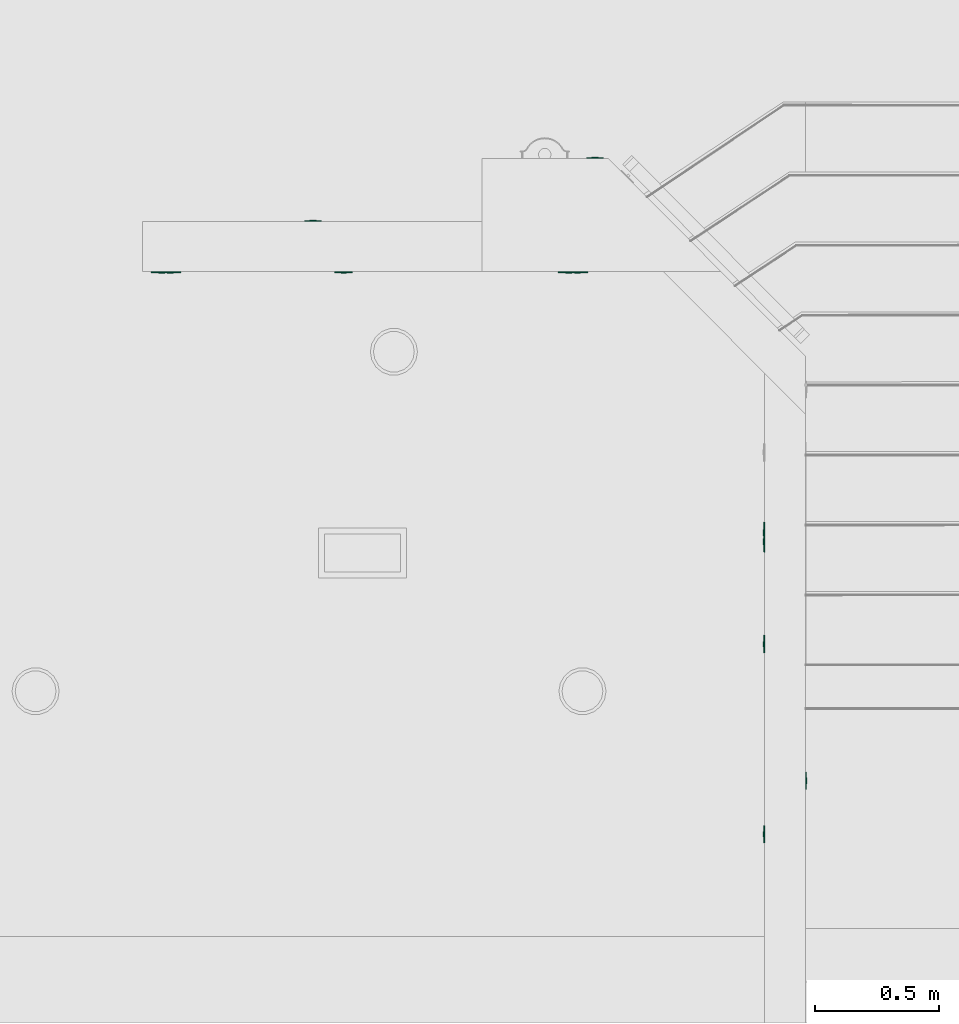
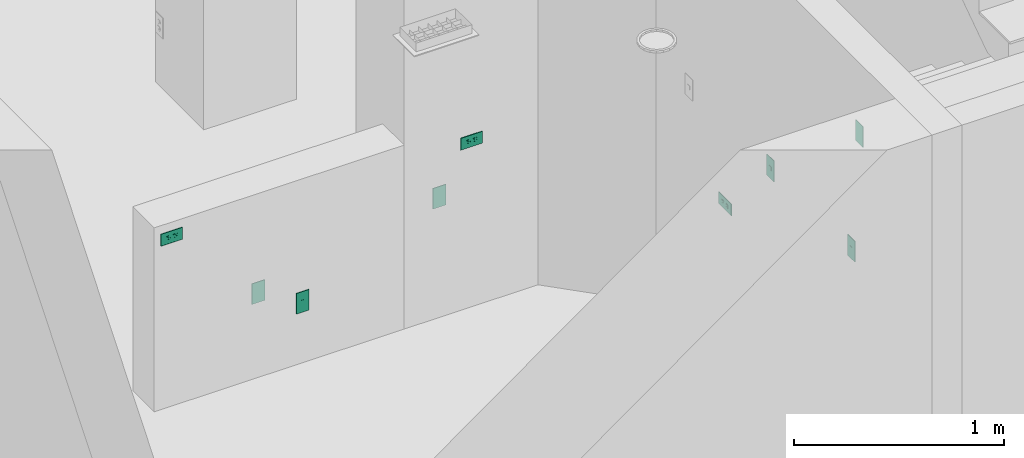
# One storey, part 4 of 48: 9 flow controllers.
"""IFC2X3 building model written with IfcOpenShell, lengths in inches."""

import ifcopenshell
import ifcopenshell.guid

model = None  # the IFC model being written
_history = None  # IfcOwnerHistory: only IFC2X3 demands one
_inside = {}  # id of a spatial element -> (the spatial element, [elements in it])
_under = {}  # id of a project, library or spatial element -> (it, [spatial elements below it])
_declared = {}  # id of a project -> (the project, [libraries it declares])
_typed = {}  # id of a type object -> (the type object, [elements of that type])
_made_of = {}  # id of a material, layer set ... -> (it, [elements and type objects made of it])


def new_model(schema):
    """Start an empty IFC model of exactly this schema.

    Asked for "IFC4X3", IfcOpenShell would pick the latest addendum, in which some entities
    have other attributes; the version numbers below select the first issue.
    IFC2X3 requires an IfcOwnerHistory on every rooted entity: one is made here for all.
    """
    global model, _history
    if schema == "IFC4X3":
        model = ifcopenshell.file(schema_version=(4, 3, 0, 0))
    else:
        model = ifcopenshell.file(schema=schema)
    _inside.clear()
    _under.clear()
    _declared.clear()
    _typed.clear()
    _made_of.clear()
    _history = None
    if model.schema == "IFC2X3":
        org = make("IfcOrganization", Name="unknown")
        user = make(
            "IfcPersonAndOrganization",
            ThePerson=make("IfcPerson", FamilyName="unknown"),
            TheOrganization=org,
        )
        app = make(
            "IfcApplication",
            ApplicationDeveloper=org,
            Version="unknown",
            ApplicationFullName="unknown",
            ApplicationIdentifier="unknown",
        )
        _history = make(
            "IfcOwnerHistory",
            OwningUser=user,
            OwningApplication=app,
            ChangeAction="ADDED",
            CreationDate=0,
        )
    return model


def make(cls, **values):
    """One entity of the class cls with the attributes given. An attribute that is None is left unset."""
    return model.create_entity(
        cls, **{name: value for name, value in values.items() if value is not None}
    )


def entity(cls, *values):
    """Any entity or typed value of the class cls, its attributes in the order of the schema. None: left unset."""
    e = model.create_entity(cls)
    for i, value in enumerate(values):
        if value is not None:
            e[i] = value
    return e


def rooted(cls, **values):
    """An entity with a GlobalId (a new one), such as an element, a storey or a relation."""
    return make(cls, GlobalId=ifcopenshell.guid.new(), OwnerHistory=_history, **values)


def si_unit(unit_type, name, prefix=None):
    """IfcSIUnit, for example si_unit("LENGTHUNIT", "METRE", prefix="MILLI")."""
    return make("IfcSIUnit", UnitType=unit_type, Prefix=prefix, Name=name)


def converted_unit(unit_type, name, factor, base, dimensions=None, offset=None):
    """IfcConversionBasedUnit, such as the inch: factor (a typed value) times the base unit."""
    return make(
        "IfcConversionBasedUnit"
        if offset is None
        else "IfcConversionBasedUnitWithOffset",
        ConversionOffset=offset,
        Dimensions=None
        if dimensions is None
        else entity("IfcDimensionalExponents", *dimensions),
        UnitType=unit_type,
        Name=name,
        ConversionFactor=make(
            "IfcMeasureWithUnit", ValueComponent=factor, UnitComponent=base
        ),
    )


def derived_unit(unit_type, elements):
    """IfcDerivedUnit: a product of units, each with its exponent."""
    return make(
        "IfcDerivedUnit",
        Elements=[
            make("IfcDerivedUnitElement", Unit=unit, Exponent=power)
            for unit, power in elements
        ],
        UnitType=unit_type,
    )


def money_unit(currency):
    """IfcMonetaryUnit."""
    return make("IfcMonetaryUnit", Currency=currency)


def assignment(units):
    """IfcUnitAssignment: the units of a project."""
    return None if units is None else make("IfcUnitAssignment", Units=units)


def point(xyz):
    """IfcCartesianPoint."""
    return None if xyz is None else make("IfcCartesianPoint", Coordinates=xyz)


def direction(xyz):
    """IfcDirection."""
    return None if xyz is None else make("IfcDirection", DirectionRatios=xyz)


def frame(location, z_axis=None, x_axis=None):
    """IfcAxis2Placement3D, a coordinate frame: its origin and axes. An axis left out is left unset."""
    return make(
        "IfcAxis2Placement3D",
        Location=point(location),
        Axis=direction(z_axis),
        RefDirection=direction(x_axis),
    )


def origin_with_axes():
    """The frame at (0, 0, 0) with the z axis (0, 0, 1) and the x axis (1, 0, 0) written out."""
    return frame((0.0, 0.0, 0.0), z_axis=(0.0, 0.0, 1.0), x_axis=(1.0, 0.0, 0.0))


def place(relative_to, where):
    """IfcLocalPlacement: puts the frame where relative to a parent placement (None: the world)."""
    return make(
        "IfcLocalPlacement", PlacementRelTo=relative_to, RelativePlacement=where
    )


def context(
    kind, dimensions, precision=None, world=None, true_north=None, identifier=None
):
    """IfcGeometricRepresentationContext, for example the 3D "Model" context."""
    return make(
        "IfcGeometricRepresentationContext",
        ContextIdentifier=identifier,
        ContextType=kind,
        CoordinateSpaceDimension=dimensions,
        Precision=precision,
        WorldCoordinateSystem=world,
        TrueNorth=true_north,
    )


def subcontext(parent, identifier, kind, view, scale=None):
    """IfcGeometricRepresentationSubContext, for example "Body" below "Model"."""
    return make(
        "IfcGeometricRepresentationSubContext",
        ContextIdentifier=identifier,
        ContextType=kind,
        ParentContext=parent,
        TargetScale=scale,
        TargetView=view,
    )


def project(units=None, contexts=None):
    """IfcProject with its units and contexts."""
    return rooted(
        "IfcProject",
        Name="project",
        RepresentationContexts=contexts,
        UnitsInContext=assignment(units),
    )


def spatial(cls, under=None, at=None, **own):
    """A site, building, storey or space (cls), placed at a placement, below another one or the project."""
    s = rooted(cls, ObjectPlacement=at, **own)
    if under is not None:
        _under.setdefault(under.id(), (under, []))[1].append(s)
    return s


def faces_of(points, faces, orient=None, outer=None):
    """IfcFace entities. A face is a list of loops; a loop is a list of indices into points, from 0.

    orient and outer hold one flag for each loop. By default every Orientation is true, the
    first loop of a face is its IfcFaceOuterBound and the others are IfcFaceBound.
    """
    made = []
    for i, loops in enumerate(faces):
        bounds = []
        for j, loop in enumerate(loops):
            is_outer = j == 0 if outer is None else outer[i][j]
            bounds.append(
                make(
                    "IfcFaceOuterBound" if is_outer else "IfcFaceBound",
                    Bound=make("IfcPolyLoop", Polygon=[points[k] for k in loop]),
                    Orientation=True if orient is None else orient[i][j],
                )
            )
        made.append(make("IfcFace", Bounds=bounds))
    return made


def faceted_brep(points, faces, orient=None, outer=None, voids=None):
    """IfcFacetedBrep: a solid bounded by flat faces; with voids (closed shells), ...WithVoids."""
    shared = [point(p) for p in points]
    hull = make("IfcClosedShell", CfsFaces=faces_of(shared, faces, orient, outer))
    if voids is None:
        return make("IfcFacetedBrep", Outer=hull)
    return make(
        "IfcFacetedBrepWithVoids",
        Outer=hull,
        Voids=[
            make(cls, CfsFaces=faces_of(shared, fs, o, b)) for cls, fs, o, b in voids
        ],
    )


def shape(context_of_items, identifier, shape_type, items):
    """IfcShapeRepresentation: the items that make up one representation, for example the "Body"."""
    return make(
        "IfcShapeRepresentation",
        ContextOfItems=context_of_items,
        RepresentationIdentifier=identifier,
        RepresentationType=shape_type,
        Items=items,
    )


def source(mapping_origin, context_of_items, identifier, shape_type, items):
    """IfcRepresentationMap: a shape defined once, which mapped items show again and again."""
    return make(
        "IfcRepresentationMap",
        MappingOrigin=mapping_origin,
        MappedRepresentation=shape(context_of_items, identifier, shape_type, items),
    )


def transform(
    local_origin,
    x_axis=None,
    y_axis=None,
    z_axis=None,
    scale=None,
    scale2=None,
    scale3=None,
    uniform=True,
):
    """IfcCartesianTransformationOperator3D, or its non-uniform kind. x_axis, y_axis, z_axis: its Axis1, 2, 3."""
    if uniform:
        return make(
            "IfcCartesianTransformationOperator3D",
            Axis1=direction(x_axis),
            Axis2=direction(y_axis),
            LocalOrigin=point(local_origin),
            Scale=scale,
            Axis3=direction(z_axis),
        )
    return make(
        "IfcCartesianTransformationOperator3DnonUniform",
        Axis1=direction(x_axis),
        Axis2=direction(y_axis),
        LocalOrigin=point(local_origin),
        Scale=scale,
        Axis3=direction(z_axis),
        Scale2=scale2,
        Scale3=scale3,
    )


def mapped(mapping_source, mapping_target):
    """IfcMappedItem: shows the shape of a source again, moved by a transform."""
    return make(
        "IfcMappedItem", MappingSource=mapping_source, MappingTarget=mapping_target
    )


def made_of(thing, what):
    """Note that an element or type object is made of a material, layer set ...; save() writes the relation."""
    if what is not None:
        _made_of.setdefault(what.id(), (what, []))[1].append(thing)
    return thing


def type_object(cls, material=None, **own):
    """A type object (cls), such as IfcWallType, which elements share."""
    return made_of(rooted(cls, **own), material)


def element(
    cls,
    number,
    at=None,
    inside=None,
    cuts=None,
    type_object=None,
    material=None,
    context=None,
    identifier="Body",
    shape_type=None,
    held_by="IfcProductDefinitionShape",
    body=None,
    shapes=None,
    **own,
):
    """One element of the class cls, such as IfcWall. Its Tag is "e" and its number.

    at: its placement. inside: the storey or other place that contains it. cuts: it is an
    opening in that element (IfcRelVoidsElement). A single representation is given by context,
    identifier, shape_type and body (its items); several are given by shapes. held_by: the class
    of the entity that holds the representations. save() writes the other relations.
    """
    e = rooted(cls, Tag="e%d" % number, ObjectPlacement=at, **own)
    if body is not None:
        shapes = [shape(context, identifier, shape_type, body)]
    if shapes is not None:
        e.Representation = make(held_by, Representations=shapes)
    if inside is not None:
        _inside.setdefault(inside.id(), (inside, []))[1].append(e)
    if cuts is not None:
        rooted(
            "IfcRelVoidsElement", RelatingBuildingElement=cuts, RelatedOpeningElement=e
        )
    if type_object is not None:
        _typed.setdefault(type_object.id(), (type_object, []))[1].append(e)
    return made_of(e, material)


def aggregate(whole, parts):
    """IfcRelAggregates: a whole, such as a stair, and the parts it consists of."""
    return rooted("IfcRelAggregates", RelatingObject=whole, RelatedObjects=parts)


def save(model, path):
    """Write the relations noted so far, then the file.

    IfcRelAggregates (storeys below a building ...), IfcRelContainedInSpatialStructure (elements
    in a storey), IfcRelDefinesByType, IfcRelAssociatesMaterial and IfcRelDeclares: one each for
    every whole, place, type object, material and project.
    """
    for whole, parts in _under.values():
        aggregate(whole, parts)
    for where, things in _inside.values():
        rooted(
            "IfcRelContainedInSpatialStructure",
            RelatedElements=things,
            RelatingStructure=where,
        )
    for kind, things in _typed.values():
        rooted("IfcRelDefinesByType", RelatedObjects=things, RelatingType=kind)
    for what, things in _made_of.values():
        rooted("IfcRelAssociatesMaterial", RelatedObjects=things, RelatingMaterial=what)
    for by, libraries in _declared.values():
        rooted("IfcRelDeclares", RelatingContext=by, RelatedDefinitions=libraries)
    model.write(path)


model = new_model("IFC2X3")

# Units and contexts
model_context = context("Model", 3, precision=0.00039370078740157, world=origin_with_axes(), true_north=direction((0.0, 1.0)))
plan_context = context("Plan", 3, precision=0.00039370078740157, world=origin_with_axes(), true_north=direction((0.0, 1.0)))
body_context = subcontext(model_context, "Body", "Model", "MODEL_VIEW")
ifc_project = project(units=[converted_unit("LENGTHUNIT", "INCH", entity("IfcPositiveLengthMeasure", 0.0254), si_unit("LENGTHUNIT", "METRE"), dimensions=[1, 0, 0, 0, 0, 0, 0]), converted_unit("AREAUNIT", "SQUARE_FOOT", entity("IfcPositiveLengthMeasure", 0.09290304), si_unit("AREAUNIT", "SQUARE_METRE"), dimensions=[2, 0, 0, 0, 0, 0, 0]), si_unit("PLANEANGLEUNIT", "RADIAN"), si_unit("SOLIDANGLEUNIT", "STERADIAN"), money_unit("USD"), converted_unit("TIMEUNIT", "Year", entity("IfcTimeMeasure", 31557600.0), si_unit("TIMEUNIT", "SECOND"), dimensions=[0, 0, 1, 0, 0, 0, 0]), si_unit("MASSUNIT", "GRAM", prefix="KILO"), si_unit("THERMODYNAMICTEMPERATUREUNIT", "DEGREE_CELSIUS"), si_unit("LUMINOUSINTENSITYUNIT", "LUMEN"), si_unit("ENERGYUNIT", "JOULE", prefix="MEGA"), derived_unit("SPECIFICHEATCAPACITYUNIT", [(si_unit("ENERGYUNIT", "JOULE"), 1), (si_unit("MASSUNIT", "GRAM", prefix="KILO"), -1), (si_unit("THERMODYNAMICTEMPERATUREUNIT", "KELVIN"), -1)])], contexts=[model_context, plan_context])

# Site, building, storey
site_placement = place(None, origin_with_axes())
site = spatial("IfcSite", under=ifc_project, at=site_placement, Name="Site", CompositionType="ELEMENT")
building_placement = place(site_placement, origin_with_axes())
building = spatial("IfcBuilding", under=site, at=building_placement, Name="Building", CompositionType="ELEMENT")
storey_placement = place(building_placement, origin_with_axes())
storey = spatial("IfcBuildingStorey", under=building, at=storey_placement, Name="First Floor", CompositionType="ELEMENT", Elevation=0.0)

# Flow controllers
switching_device_type = type_object("IfcSwitchingDeviceType", Name="Outlet 1 US", PredefinedType="NOTDEFINED")
shared_shape_1 = source(origin_with_axes(), body_context, "Body", "Brep", [
    faceted_brep([(0.39370078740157, -0.03444881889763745, -1.18110236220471), (0.5436477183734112, -0.03444881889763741, -0.7086614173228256), (0.5436477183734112, -0.2165354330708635, -0.7086614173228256), (0.39370078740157, -0.2165354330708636, -1.18110236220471), (-0.3937007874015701, -0.03444881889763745, -1.181102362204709), (-0.543647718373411, -0.03444881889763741, -0.7086614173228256), (-0.39370078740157, -0.03444881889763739, -0.2362204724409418), (0.3937007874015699, -0.03444881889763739, -0.2362204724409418), (-0.196850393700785, -0.03444881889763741, -0.7086614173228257), (-0.196850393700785, -0.0344488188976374, -0.4724409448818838), (-0.275590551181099, -0.0344488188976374, -0.4724409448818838), (-0.275590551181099, -0.03444881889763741, -0.7086614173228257), (0.196850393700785, -0.03444881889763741, -0.7086614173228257), (0.275590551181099, -0.03444881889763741, -0.7086614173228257), (0.275590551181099, -0.0344488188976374, -0.4724409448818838), (0.196850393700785, -0.0344488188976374, -0.4724409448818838), (-0.078740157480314, -0.03444881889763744, -1.102362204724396), (0.078740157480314, -0.03444881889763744, -1.102362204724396), (0.078740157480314, -0.03444881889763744, -1.023622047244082), (0.06819097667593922, -0.03444881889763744, -0.9842519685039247), (0.03937007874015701, -0.03444881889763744, -0.9554310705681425), (0.0, -0.03444881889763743, -0.9448818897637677), (-0.03937007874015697, -0.03444881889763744, -0.9554310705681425), (-0.06819097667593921, -0.03444881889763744, -0.9842519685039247), (-0.078740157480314, -0.03444881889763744, -1.023622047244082), (0.3937007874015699, -0.2165354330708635, -0.2362204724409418), (-0.39370078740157, -0.2165354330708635, -0.2362204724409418), (-0.543647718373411, -0.2165354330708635, -0.7086614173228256), (-0.3937007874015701, -0.2165354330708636, -1.181102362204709), (-0.196850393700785, -0.2165354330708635, -0.7086614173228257), (-0.275590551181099, -0.2165354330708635, -0.7086614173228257), (-0.275590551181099, -0.2165354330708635, -0.4724409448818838), (-0.196850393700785, -0.2165354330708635, -0.4724409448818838), (0.196850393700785, -0.2165354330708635, -0.7086614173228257), (0.196850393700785, -0.2165354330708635, -0.4724409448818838), (0.275590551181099, -0.2165354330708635, -0.4724409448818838), (0.275590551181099, -0.2165354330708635, -0.7086614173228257), (-0.078740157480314, -0.2165354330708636, -1.102362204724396), (-0.078740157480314, -0.2165354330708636, -1.023622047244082), (-0.06819097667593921, -0.2165354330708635, -0.9842519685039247), (-0.03937007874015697, -0.2165354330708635, -0.9554310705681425), (0.0, -0.2165354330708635, -0.9448818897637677), (0.03937007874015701, -0.2165354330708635, -0.9554310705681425), (0.06819097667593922, -0.2165354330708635, -0.9842519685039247), (0.078740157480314, -0.2165354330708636, -1.023622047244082), (0.078740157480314, -0.2165354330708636, -1.102362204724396)], [[[0, 1, 2, 3]], [[0, 4, 5, 6, 7, 1], [8, 9, 10, 11], [12, 13, 14, 15], [16, 17, 18, 19, 20, 21, 22, 23, 24]], [[1, 7, 25, 2]], [[3, 2, 25, 26, 27, 28], [29, 30, 31, 32], [33, 34, 35, 36], [37, 38, 39, 40, 41, 42, 43, 44, 45]], [[4, 0, 3, 28]], [[5, 4, 28, 27]], [[6, 5, 27, 26]], [[7, 6, 26, 25]], [[9, 8, 29, 32]], [[10, 9, 32, 31]], [[11, 10, 31, 30]], [[8, 11, 30, 29]], [[13, 12, 33, 36]], [[14, 13, 36, 35]], [[15, 14, 35, 34]], [[12, 15, 34, 33]], [[17, 16, 37, 45]], [[18, 17, 45, 44]], [[19, 18, 44, 43]], [[20, 19, 43, 42]], [[21, 20, 42, 41]], [[22, 21, 41, 40]], [[23, 22, 40, 39]], [[24, 23, 39, 38]], [[16, 24, 38, 37]]]),
    faceted_brep([(0.39370078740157, -0.03444881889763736, 0.2362204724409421), (0.5436477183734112, -0.03444881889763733, 0.7086614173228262), (0.5436477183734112, -0.2165354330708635, 0.7086614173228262), (0.39370078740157, -0.2165354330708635, 0.2362204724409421), (-0.3937007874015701, -0.03444881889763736, 0.2362204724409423), (-0.543647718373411, -0.03444881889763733, 0.7086614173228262), (-0.39370078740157, -0.0344488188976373, 1.18110236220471), (0.3937007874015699, -0.0344488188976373, 1.18110236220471), (-0.196850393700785, -0.03444881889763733, 0.7086614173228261), (-0.196850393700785, -0.03444881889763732, 0.944881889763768), (-0.275590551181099, -0.03444881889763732, 0.944881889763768), (-0.275590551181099, -0.03444881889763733, 0.7086614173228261), (0.196850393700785, -0.03444881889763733, 0.7086614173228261), (0.275590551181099, -0.03444881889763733, 0.7086614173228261), (0.275590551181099, -0.03444881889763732, 0.944881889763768), (0.196850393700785, -0.03444881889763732, 0.944881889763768), (-0.078740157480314, -0.03444881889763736, 0.3149606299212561), (0.078740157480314, -0.03444881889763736, 0.3149606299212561), (0.078740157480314, -0.03444881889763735, 0.3937007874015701), (0.06819097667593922, -0.03444881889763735, 0.4330708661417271), (0.03937007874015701, -0.03444881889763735, 0.4618917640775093), (0.0, -0.03444881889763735, 0.472440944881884), (-0.03937007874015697, -0.03444881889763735, 0.4618917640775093), (-0.06819097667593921, -0.03444881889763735, 0.4330708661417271), (-0.078740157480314, -0.03444881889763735, 0.3937007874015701), (0.3937007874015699, -0.2165354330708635, 1.18110236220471), (-0.39370078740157, -0.2165354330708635, 1.18110236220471), (-0.543647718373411, -0.2165354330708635, 0.7086614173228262), (-0.3937007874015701, -0.2165354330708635, 0.2362204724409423), (-0.196850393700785, -0.2165354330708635, 0.7086614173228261), (-0.275590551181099, -0.2165354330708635, 0.7086614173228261), (-0.275590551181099, -0.2165354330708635, 0.944881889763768), (-0.196850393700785, -0.2165354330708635, 0.944881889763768), (0.196850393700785, -0.2165354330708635, 0.7086614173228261), (0.196850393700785, -0.2165354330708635, 0.944881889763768), (0.275590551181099, -0.2165354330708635, 0.944881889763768), (0.275590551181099, -0.2165354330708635, 0.7086614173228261), (-0.078740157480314, -0.2165354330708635, 0.3149606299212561), (-0.078740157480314, -0.2165354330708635, 0.3937007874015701), (-0.06819097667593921, -0.2165354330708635, 0.4330708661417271), (-0.03937007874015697, -0.2165354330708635, 0.4618917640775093), (0.0, -0.2165354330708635, 0.472440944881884), (0.03937007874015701, -0.2165354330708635, 0.4618917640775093), (0.06819097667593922, -0.2165354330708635, 0.4330708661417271), (0.078740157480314, -0.2165354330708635, 0.3937007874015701), (0.078740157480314, -0.2165354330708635, 0.3149606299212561)], [[[0, 1, 2, 3]], [[0, 4, 5, 6, 7, 1], [8, 9, 10, 11], [12, 13, 14, 15], [16, 17, 18, 19, 20, 21, 22, 23, 24]], [[1, 7, 25, 2]], [[3, 2, 25, 26, 27, 28], [29, 30, 31, 32], [33, 34, 35, 36], [37, 38, 39, 40, 41, 42, 43, 44, 45]], [[4, 0, 3, 28]], [[5, 4, 28, 27]], [[6, 5, 27, 26]], [[7, 6, 26, 25]], [[9, 8, 29, 32]], [[10, 9, 32, 31]], [[11, 10, 31, 30]], [[8, 11, 30, 29]], [[13, 12, 33, 36]], [[14, 13, 36, 35]], [[15, 14, 35, 34]], [[12, 15, 34, 33]], [[17, 16, 37, 45]], [[18, 17, 45, 44]], [[19, 18, 44, 43]], [[20, 19, 43, 42]], [[21, 20, 42, 41]], [[22, 21, 41, 40]], [[23, 22, 40, 39]], [[24, 23, 39, 38]], [[16, 24, 38, 37]]]),
    faceted_brep([(-1.343503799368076, -0.1377952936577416, -2.327755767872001), (1.343503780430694, -0.1377952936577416, -2.327755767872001), (1.343503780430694, -0.1377952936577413, 2.327755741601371), (-1.343503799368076, -0.1377952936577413, 2.327755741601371), (0.39370078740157, -0.1377952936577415, -1.18110236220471), (-0.3937007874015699, -0.1377952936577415, -1.181102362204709), (-0.5436477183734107, -0.1377952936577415, -0.7086614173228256), (-0.39370078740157, -0.1377952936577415, -0.2362204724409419), (0.3937007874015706, -0.1377952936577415, -0.2362204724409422), (0.5436477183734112, -0.1377952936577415, -0.7086614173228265), (-0.39370078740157, -0.1377952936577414, 1.18110236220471), (0.3937007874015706, -0.1377952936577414, 1.18110236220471), (0.5436477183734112, -0.1377952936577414, 0.7086614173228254), (0.39370078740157, -0.1377952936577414, 0.236220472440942), (-0.3937007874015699, -0.1377952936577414, 0.2362204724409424), (-0.5436477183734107, -0.1377952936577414, 0.7086614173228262), (-1.352419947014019, -0.1366214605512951, -2.336671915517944), (1.352419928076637, -0.1366214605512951, -2.336671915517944), (1.352419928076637, -0.1366214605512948, 2.336671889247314), (-1.352419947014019, -0.1366214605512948, 2.336671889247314), (0.39370078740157, -0.03444881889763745, -1.18110236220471), (-0.3937007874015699, -0.03444881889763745, -1.181102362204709), (-0.5436477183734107, -0.03444881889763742, -0.7086614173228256), (-0.39370078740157, -0.03444881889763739, -0.2362204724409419), (0.3937007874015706, -0.03444881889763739, -0.2362204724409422), (0.5436477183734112, -0.03444881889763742, -0.7086614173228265), (-0.39370078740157, -0.0344488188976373, 1.18110236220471), (0.3937007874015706, -0.0344488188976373, 1.18110236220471), (0.5436477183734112, -0.03444881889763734, 0.7086614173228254), (0.39370078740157, -0.03444881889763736, 0.236220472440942), (-0.3937007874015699, -0.03444881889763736, 0.2362204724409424), (-0.5436477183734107, -0.03444881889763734, 0.7086614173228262), (-1.36786294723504, -0.1277054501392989, -2.352114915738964), (1.367862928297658, -0.1277054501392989, -2.352114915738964), (1.367862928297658, -0.1277054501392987, 2.352114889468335), (-1.36786294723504, -0.1277054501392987, 2.352114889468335), (-1.376778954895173, -0.1122624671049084, -2.361030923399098), (1.376778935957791, -0.1122624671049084, -2.361030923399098), (1.376778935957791, -0.1122624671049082, 2.361030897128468), (-1.376778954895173, -0.1122624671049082, 2.361030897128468), (-1.377952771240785, -0.1033464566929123, -2.362204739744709), (1.377952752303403, -0.1033464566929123, -2.362204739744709), (1.377952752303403, -0.103346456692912, 2.36220471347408), (-1.377952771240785, -0.103346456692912, 2.36220471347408), (-1.377952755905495, 0.0, -2.36220472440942), (1.377952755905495, 0.0, -2.36220472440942), (1.377952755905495, 0.0, 2.36220472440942), (-1.377952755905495, 0.0, 2.36220472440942)], [[[0, 1, 2, 3], [4, 5, 6, 7, 8, 9], [10, 11, 12, 13, 14, 15]], [[1, 0, 16, 17]], [[2, 1, 17, 18]], [[3, 2, 18, 19]], [[0, 3, 19, 16]], [[4, 20, 21, 5]], [[5, 21, 22, 6]], [[6, 22, 23, 7]], [[7, 23, 24, 8]], [[8, 24, 25, 9]], [[9, 25, 20, 4]], [[11, 10, 26, 27]], [[12, 11, 27, 28]], [[13, 12, 28, 29]], [[14, 13, 29, 30]], [[15, 14, 30, 31]], [[10, 15, 31, 26]], [[17, 16, 32, 33]], [[18, 17, 33, 34]], [[19, 18, 34, 35]], [[16, 19, 35, 32]], [[22, 21, 20, 25, 24, 23]], [[28, 27, 26, 31, 30, 29]], [[33, 32, 36, 37]], [[34, 33, 37, 38]], [[35, 34, 38, 39]], [[32, 35, 39, 36]], [[37, 36, 40, 41]], [[38, 37, 41, 42]], [[39, 38, 42, 43]], [[36, 39, 43, 40]], [[41, 40, 44, 45]], [[42, 41, 45, 46]], [[43, 42, 46, 47]], [[40, 43, 47, 44]], [[46, 45, 44, 47]]]),
])
for number, where, z_axis, x_axis, name in (
    (1, (127.9980231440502, 137.4999999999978, 12.99999999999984), (0.0, 0.0, 1.0), (-1.0, 0.0, 0.0), "FU - 029"),
    (2, (161.4999999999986, 38.50000160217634, 75.74999999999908), (0.0, 0.0, 1.0), (0.0, 1.0, 0.0), "FU - 029"),
    (3, (83.12302314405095, 127.499999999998, 12.99999999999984), (0.0, 0.0, 1.0), (-1.0, 0.0, 0.0), "FU - 029"),
):
    element("IfcFlowController", number, at=place(storey_placement, frame(where, z_axis=z_axis, x_axis=x_axis)), inside=storey, type_object=switching_device_type, Name=name, context=body_context, shape_type="MappedRepresentation", body=[
        mapped(shared_shape_1, transform((0.0, 0.0, 0.0))),
    ])
shared_shape_2 = source(origin_with_axes(), body_context, "Body", "Brep", [
    faceted_brep([(0.39370078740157, -0.0344488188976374, -0.472440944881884), (0.3937007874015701, -0.03444881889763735, 0.472440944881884), (0.3937007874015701, -0.2165354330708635, 0.472440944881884), (0.39370078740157, -0.2165354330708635, -0.472440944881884), (-0.3937007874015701, -0.0344488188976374, -0.4724409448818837), (-0.39370078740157, -0.03444881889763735, 0.472440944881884), (-0.39370078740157, -0.2165354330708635, 0.472440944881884), (-0.3937007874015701, -0.2165354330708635, -0.4724409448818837)], [[[0, 1, 2, 3]], [[0, 4, 5, 1]], [[1, 5, 6, 2]], [[3, 2, 6, 7]], [[4, 0, 3, 7]], [[5, 4, 7, 6]]]),
    faceted_brep([(1.377952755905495, -0.1377952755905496, -2.36220472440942), (1.377952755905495, -0.1377952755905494, 2.36220472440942), (-1.377952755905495, -0.1377952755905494, 2.36220472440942), (-1.377952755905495, -0.1377952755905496, -2.36220472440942), (-0.3937007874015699, -0.1377952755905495, -0.4724409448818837), (-0.39370078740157, -0.1377952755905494, 0.4724409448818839), (0.3937007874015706, -0.1377952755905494, 0.4724409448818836), (0.39370078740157, -0.1377952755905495, -0.472440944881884), (1.377952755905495, 0.0, 2.36220472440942), (1.377952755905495, 0.0, -2.36220472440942), (-1.377952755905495, 0.0, 2.36220472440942), (-1.377952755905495, 0.0, -2.36220472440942), (-0.3937007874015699, -0.0344488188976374, -0.4724409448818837), (-0.39370078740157, -0.03444881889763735, 0.4724409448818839), (0.3937007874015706, -0.03444881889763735, 0.4724409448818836), (0.39370078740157, -0.0344488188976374, -0.472440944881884)], [[[0, 1, 2, 3], [4, 5, 6, 7]], [[8, 1, 0, 9]], [[10, 2, 1, 8]], [[11, 3, 2, 10]], [[9, 0, 3, 11]], [[5, 4, 12, 13]], [[6, 5, 13, 14]], [[7, 6, 14, 15]], [[4, 7, 15, 12]], [[10, 8, 9, 11]], [[14, 13, 12, 15]]]),
])
for number, where, z_axis, x_axis, name in (
    (4, (88.00103996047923, 119.4999999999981, 13.99999999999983), (0.0, 0.0, 1.0), (1.0, 0.0, 0.0), "OBJ-05"),
    (5, (154.9999999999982, 60.24999999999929, 56.9999999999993), (0.0, 0.0, 1.0), (0.0, -1.0, 0.0), "OBJ-05"),
    (6, (154.9999999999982, 29.99999999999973, 56.9999999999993), (0.0, 0.0, 1.0), (0.0, -1.0, 0.0), "OBJ-05"),
):
    element("IfcFlowController", number, at=place(storey_placement, frame(where, z_axis=z_axis, x_axis=x_axis)), inside=storey, type_object=switching_device_type, Name=name, context=body_context, shape_type="MappedRepresentation", body=[
        mapped(shared_shape_2, transform((0.0, 0.0, 0.0))),
    ])
shared_shape_3 = source(origin_with_axes(), body_context, "Body", "Brep", [
    faceted_brep([(1.18110236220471, -0.03444881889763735, 0.3937007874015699), (0.708661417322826, -0.03444881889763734, 0.5436477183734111), (0.708661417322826, -0.2165354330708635, 0.5436477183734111), (1.18110236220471, -0.2165354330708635, 0.3937007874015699), (1.18110236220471, -0.0344488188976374, -0.3937007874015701), (0.708661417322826, -0.03444881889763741, -0.543647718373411), (0.2362204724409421, -0.0344488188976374, -0.3937007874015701), (0.2362204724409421, -0.03444881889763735, 0.3937007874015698), (0.7086614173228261, -0.03444881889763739, -0.196850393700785), (0.472440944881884, -0.03444881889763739, -0.196850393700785), (0.472440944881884, -0.03444881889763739, -0.275590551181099), (0.7086614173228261, -0.03444881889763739, -0.275590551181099), (0.7086614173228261, -0.03444881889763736, 0.196850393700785), (0.7086614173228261, -0.03444881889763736, 0.275590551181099), (0.472440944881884, -0.03444881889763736, 0.275590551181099), (0.472440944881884, -0.03444881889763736, 0.196850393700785), (1.102362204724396, -0.03444881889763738, -0.07874015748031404), (1.102362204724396, -0.03444881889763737, 0.07874015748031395), (1.023622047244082, -0.03444881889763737, 0.07874015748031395), (0.984251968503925, -0.03444881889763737, 0.06819097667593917), (0.9554310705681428, -0.03444881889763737, 0.03937007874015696), (0.944881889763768, -0.03444881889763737, 0.0), (0.9554310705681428, -0.03444881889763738, -0.03937007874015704), (0.984251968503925, -0.03444881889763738, -0.06819097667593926), (1.023622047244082, -0.03444881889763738, -0.07874015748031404), (0.2362204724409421, -0.2165354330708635, 0.3937007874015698), (0.2362204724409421, -0.2165354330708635, -0.3937007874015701), (0.708661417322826, -0.2165354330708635, -0.543647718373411), (1.18110236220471, -0.2165354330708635, -0.3937007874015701), (0.7086614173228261, -0.2165354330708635, -0.196850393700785), (0.7086614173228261, -0.2165354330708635, -0.275590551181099), (0.472440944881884, -0.2165354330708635, -0.275590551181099), (0.472440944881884, -0.2165354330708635, -0.196850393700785), (0.7086614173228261, -0.2165354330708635, 0.196850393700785), (0.472440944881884, -0.2165354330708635, 0.196850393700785), (0.472440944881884, -0.2165354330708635, 0.275590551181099), (0.7086614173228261, -0.2165354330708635, 0.275590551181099), (1.102362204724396, -0.2165354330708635, -0.07874015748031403), (1.023622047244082, -0.2165354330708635, -0.07874015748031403), (0.984251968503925, -0.2165354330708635, -0.06819097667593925), (0.9554310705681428, -0.2165354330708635, -0.03937007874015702), (0.944881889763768, -0.2165354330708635, 0.0), (0.9554310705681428, -0.2165354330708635, 0.03937007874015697), (0.984251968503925, -0.2165354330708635, 0.06819097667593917), (1.023622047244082, -0.2165354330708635, 0.07874015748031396), (1.102362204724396, -0.2165354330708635, 0.07874015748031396)], [[[0, 1, 2, 3]], [[0, 4, 5, 6, 7, 1], [8, 9, 10, 11], [12, 13, 14, 15], [16, 17, 18, 19, 20, 21, 22, 23, 24]], [[1, 7, 25, 2]], [[3, 2, 25, 26, 27, 28], [29, 30, 31, 32], [33, 34, 35, 36], [37, 38, 39, 40, 41, 42, 43, 44, 45]], [[4, 0, 3, 28]], [[5, 4, 28, 27]], [[6, 5, 27, 26]], [[7, 6, 26, 25]], [[9, 8, 29, 32]], [[10, 9, 32, 31]], [[11, 10, 31, 30]], [[8, 11, 30, 29]], [[13, 12, 33, 36]], [[14, 13, 36, 35]], [[15, 14, 35, 34]], [[12, 15, 34, 33]], [[17, 16, 37, 45]], [[18, 17, 45, 44]], [[19, 18, 44, 43]], [[20, 19, 43, 42]], [[21, 20, 42, 41]], [[22, 21, 41, 40]], [[23, 22, 40, 39]], [[24, 23, 39, 38]], [[16, 24, 38, 37]]]),
    faceted_brep([(-0.2362204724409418, -0.03444881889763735, 0.3937007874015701), (-0.708661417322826, -0.03444881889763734, 0.5436477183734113), (-0.708661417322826, -0.2165354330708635, 0.5436477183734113), (-0.2362204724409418, -0.2165354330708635, 0.3937007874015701), (-0.2362204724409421, -0.0344488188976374, -0.39370078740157), (-0.708661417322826, -0.03444881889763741, -0.5436477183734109), (-1.18110236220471, -0.0344488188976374, -0.3937007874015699), (-1.18110236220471, -0.03444881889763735, 0.39370078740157), (-0.7086614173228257, -0.03444881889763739, -0.196850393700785), (-0.9448818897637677, -0.03444881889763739, -0.196850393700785), (-0.9448818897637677, -0.03444881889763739, -0.275590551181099), (-0.7086614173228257, -0.03444881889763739, -0.275590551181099), (-0.7086614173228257, -0.03444881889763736, 0.196850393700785), (-0.7086614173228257, -0.03444881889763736, 0.275590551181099), (-0.9448818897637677, -0.03444881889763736, 0.275590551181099), (-0.9448818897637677, -0.03444881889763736, 0.196850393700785), (-0.3149606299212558, -0.03444881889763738, -0.07874015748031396), (-0.3149606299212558, -0.03444881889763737, 0.07874015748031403), (-0.3937007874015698, -0.03444881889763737, 0.07874015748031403), (-0.4330708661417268, -0.03444881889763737, 0.06819097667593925), (-0.461891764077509, -0.03444881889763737, 0.03937007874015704), (-0.4724409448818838, -0.03444881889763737, 0.0), (-0.461891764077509, -0.03444881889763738, -0.03937007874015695), (-0.4330708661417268, -0.03444881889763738, -0.06819097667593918), (-0.3937007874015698, -0.03444881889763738, -0.07874015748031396), (-1.18110236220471, -0.2165354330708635, 0.39370078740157), (-1.18110236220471, -0.2165354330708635, -0.3937007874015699), (-0.708661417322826, -0.2165354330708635, -0.5436477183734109), (-0.2362204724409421, -0.2165354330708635, -0.39370078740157), (-0.7086614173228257, -0.2165354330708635, -0.196850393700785), (-0.7086614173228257, -0.2165354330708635, -0.275590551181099), (-0.9448818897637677, -0.2165354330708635, -0.275590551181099), (-0.9448818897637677, -0.2165354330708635, -0.196850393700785), (-0.7086614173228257, -0.2165354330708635, 0.196850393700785), (-0.9448818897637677, -0.2165354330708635, 0.196850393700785), (-0.9448818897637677, -0.2165354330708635, 0.275590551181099), (-0.7086614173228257, -0.2165354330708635, 0.275590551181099), (-0.3149606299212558, -0.2165354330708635, -0.07874015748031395), (-0.3937007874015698, -0.2165354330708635, -0.07874015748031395), (-0.4330708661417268, -0.2165354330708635, -0.06819097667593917), (-0.461891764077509, -0.2165354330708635, -0.03937007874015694), (-0.4724409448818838, -0.2165354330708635, 0.0), (-0.461891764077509, -0.2165354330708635, 0.03937007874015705), (-0.4330708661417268, -0.2165354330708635, 0.06819097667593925), (-0.3937007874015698, -0.2165354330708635, 0.07874015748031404), (-0.3149606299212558, -0.2165354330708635, 0.07874015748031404)], [[[0, 1, 2, 3]], [[0, 4, 5, 6, 7, 1], [8, 9, 10, 11], [12, 13, 14, 15], [16, 17, 18, 19, 20, 21, 22, 23, 24]], [[1, 7, 25, 2]], [[3, 2, 25, 26, 27, 28], [29, 30, 31, 32], [33, 34, 35, 36], [37, 38, 39, 40, 41, 42, 43, 44, 45]], [[4, 0, 3, 28]], [[5, 4, 28, 27]], [[6, 5, 27, 26]], [[7, 6, 26, 25]], [[9, 8, 29, 32]], [[10, 9, 32, 31]], [[11, 10, 31, 30]], [[8, 11, 30, 29]], [[13, 12, 33, 36]], [[14, 13, 36, 35]], [[15, 14, 35, 34]], [[12, 15, 34, 33]], [[17, 16, 37, 45]], [[18, 17, 45, 44]], [[19, 18, 44, 43]], [[20, 19, 43, 42]], [[21, 20, 42, 41]], [[22, 21, 41, 40]], [[23, 22, 40, 39]], [[24, 23, 39, 38]], [[16, 24, 38, 37]]]),
    faceted_brep([(2.327755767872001, -0.1377952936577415, -1.343503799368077), (2.327755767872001, -0.1377952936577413, 1.343503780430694), (-2.32775574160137, -0.1377952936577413, 1.343503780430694), (-2.32775574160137, -0.1377952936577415, -1.343503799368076), (1.18110236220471, -0.1377952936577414, -0.39370078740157), (0.708661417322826, -0.1377952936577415, -0.5436477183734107), (0.2362204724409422, -0.1377952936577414, -0.39370078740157), (0.2362204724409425, -0.1377952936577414, 0.3937007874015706), (0.7086614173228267, -0.1377952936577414, 0.5436477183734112), (1.18110236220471, -0.1377952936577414, 0.3937007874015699), (-1.181102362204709, -0.1377952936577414, 0.3937007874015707), (-0.7086614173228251, -0.1377952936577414, 0.5436477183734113), (-0.2362204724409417, -0.1377952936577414, 0.39370078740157), (-0.2362204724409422, -0.1377952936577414, -0.3937007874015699), (-0.708661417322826, -0.1377952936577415, -0.5436477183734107), (-1.18110236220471, -0.1377952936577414, -0.3937007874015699), (2.336671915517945, -0.1366214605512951, -1.352419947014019), (2.336671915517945, -0.1366214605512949, 1.352419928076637), (-2.336671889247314, -0.1366214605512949, 1.352419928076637), (-2.336671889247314, -0.1366214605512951, -1.352419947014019), (1.18110236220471, -0.0344488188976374, -0.39370078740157), (0.708661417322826, -0.0344488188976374, -0.5436477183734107), (0.2362204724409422, -0.0344488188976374, -0.39370078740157), (0.2362204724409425, -0.03444881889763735, 0.3937007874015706), (0.7086614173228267, -0.03444881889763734, 0.5436477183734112), (1.18110236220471, -0.03444881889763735, 0.3937007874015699), (-1.181102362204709, -0.03444881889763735, 0.3937007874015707), (-0.7086614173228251, -0.03444881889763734, 0.5436477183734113), (-0.2362204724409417, -0.03444881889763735, 0.39370078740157), (-0.2362204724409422, -0.0344488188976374, -0.3937007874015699), (-0.708661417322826, -0.0344488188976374, -0.5436477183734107), (-1.18110236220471, -0.0344488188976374, -0.3937007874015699), (2.352114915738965, -0.1277054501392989, -1.36786294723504), (2.352114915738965, -0.1277054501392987, 1.367862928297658), (-2.352114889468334, -0.1277054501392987, 1.367862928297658), (-2.352114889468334, -0.1277054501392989, -1.367862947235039), (2.361030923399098, -0.1122624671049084, -1.376778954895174), (2.361030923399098, -0.1122624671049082, 1.376778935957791), (-2.361030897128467, -0.1122624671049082, 1.376778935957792), (-2.361030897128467, -0.1122624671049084, -1.376778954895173), (2.36220473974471, -0.1033464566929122, -1.377952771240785), (2.36220473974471, -0.103346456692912, 1.377952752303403), (-2.362204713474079, -0.103346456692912, 1.377952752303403), (-2.362204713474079, -0.1033464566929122, -1.377952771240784), (2.36220472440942, 0.0, -1.377952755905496), (2.36220472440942, 0.0, 1.377952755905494), (-2.36220472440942, 0.0, 1.377952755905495), (-2.36220472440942, 0.0, -1.377952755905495)], [[[0, 1, 2, 3], [4, 5, 6, 7, 8, 9], [10, 11, 12, 13, 14, 15]], [[1, 0, 16, 17]], [[2, 1, 17, 18]], [[3, 2, 18, 19]], [[0, 3, 19, 16]], [[4, 20, 21, 5]], [[5, 21, 22, 6]], [[6, 22, 23, 7]], [[7, 23, 24, 8]], [[8, 24, 25, 9]], [[9, 25, 20, 4]], [[11, 10, 26, 27]], [[12, 11, 27, 28]], [[13, 12, 28, 29]], [[14, 13, 29, 30]], [[15, 14, 30, 31]], [[10, 15, 31, 26]], [[17, 16, 32, 33]], [[18, 17, 33, 34]], [[19, 18, 34, 35]], [[16, 19, 35, 32]], [[21, 20, 25, 24, 23, 22]], [[27, 26, 31, 30, 29, 28]], [[33, 32, 36, 37]], [[34, 33, 37, 38]], [[35, 34, 38, 39]], [[32, 35, 39, 36]], [[37, 36, 40, 41]], [[38, 37, 41, 42]], [[39, 38, 42, 43]], [[36, 39, 43, 40]], [[41, 40, 44, 45]], [[42, 41, 45, 46]], [[43, 42, 46, 47]], [[40, 43, 47, 44]], [[46, 45, 44, 47]]]),
])
for number, where, z_axis, x_axis, name in (
    (7, (124.5032711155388, 119.499999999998, 37.99999999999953), (0.0, 0.0, 1.0), (1.0, 0.0, 0.0), "FU - 029"),
    (8, (154.999999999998, 77.25256356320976, 38.49999999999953), (0.0, 0.0, 1.0), (0.0, -1.0, 0.0), "FU - 029"),
    (9, (59.7435702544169, 119.499999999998, 38.74999999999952), (0.0, 0.0, 1.0), (1.0, 0.0, 0.0), "FU - 029"),
):
    element("IfcFlowController", number, at=place(storey_placement, frame(where, z_axis=z_axis, x_axis=x_axis)), inside=storey, type_object=switching_device_type, Name=name, context=body_context, shape_type="MappedRepresentation", body=[
        mapped(shared_shape_3, transform((0.0, 0.0, 0.0))),
    ])

save(model, "model.ifc")
